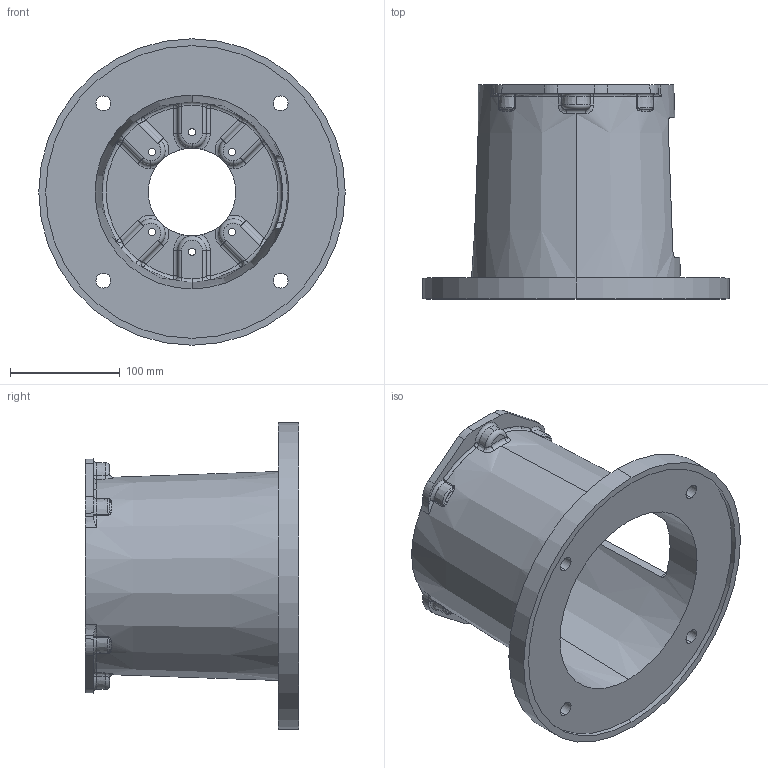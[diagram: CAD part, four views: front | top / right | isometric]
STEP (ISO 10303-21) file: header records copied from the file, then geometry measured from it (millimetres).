
FILE_DESCRIPTION (( 'STEP AP203' ), '1' );
FILE_NAME ('M2847580M.STEP', '2015-01-19T16:31:58', ( '' ), ( '' ), 'SwSTEP 2.0', 'SolidWorks 2014', '' );
FILE_SCHEMA (( 'CONFIG_CONTROL_DESIGN' ));
Length unit declared in the file: inch
Products named in the file (1): M2847580M
Bounding box: 279.4 x 195.07 x 279.4 mm (x, y, z)
Volume: 1469256.5 mm3; surface area: 330300.1 mm2
Topology: 1 solids, 1 shells, 339 faces, 853 edges, 498 vertices
Faces by surface type: torus 97, cylinder 86, bspline 64, plane 50, sphere 24, cone 18
Entity records: 13773 total; most frequent: CARTESIAN_POINT 5995, ORIENTED_EDGE 1666, DIRECTION 1638, EDGE_CURVE 833, AXIS2_PLACEMENT_3D 739, VERTEX_POINT 498, CIRCLE 463, EDGE_LOOP 365
